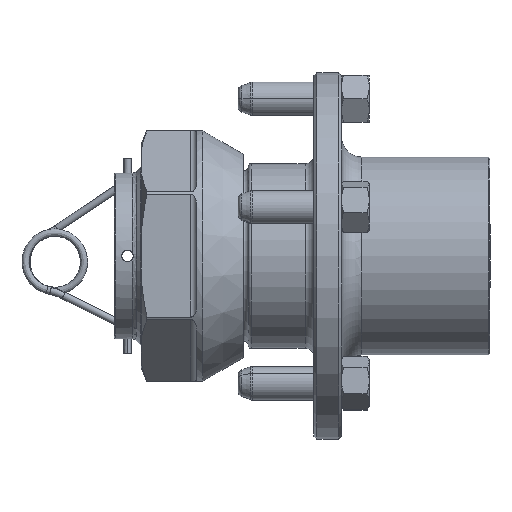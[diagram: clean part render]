
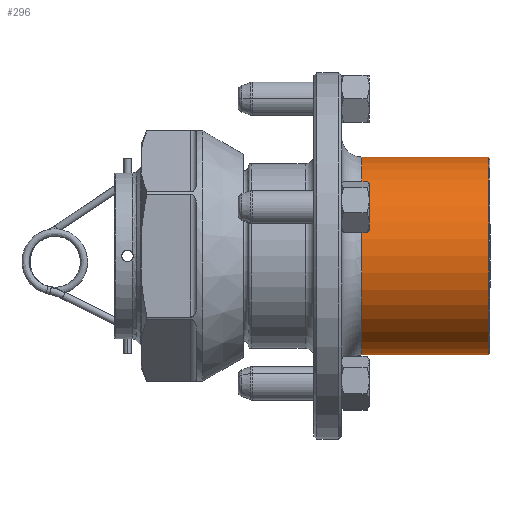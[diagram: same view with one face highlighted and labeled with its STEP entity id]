
A CAD part, top view. The second image highlights one B-rep face of the part: STEP entity #296.
In plain terms, the highlighted cylindrical face has radius 34 mm (diameter 68 mm), a partial arc.
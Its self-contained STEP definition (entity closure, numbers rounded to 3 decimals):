
#296 = ADVANCED_FACE ( 'NONE', ( #5926 ), #13470, .T. ) ;
#883 = EDGE_CURVE ( 'NONE', #19464, #10763, #4447, .T. ) ;
#4056 = DIRECTION ( 'NONE',  ( -1., 0., 0. ) ) ;
#4275 = ORIENTED_EDGE ( 'NONE', *, *, #883, .T. ) ;
#4447 = CIRCLE ( 'NONE', #18035, 34. ) ;
#5503 = CARTESIAN_POINT ( 'NONE',  ( 128.5, -34., 0. ) ) ;
#5817 = AXIS2_PLACEMENT_3D ( 'NONE', #21065, #4056, #11580 ) ;
#5822 = ORIENTED_EDGE ( 'NONE', *, *, #12058, .F. ) ;
#5926 = FACE_OUTER_BOUND ( 'NONE', #7096, .T. ) ;
#7059 = VERTEX_POINT ( 'NONE', #5503 ) ;
#7096 = EDGE_LOOP ( 'NONE', ( #21116, #20594, #4275, #5822 ) ) ;
#7099 = DIRECTION ( 'NONE',  ( 0., -1., 0. ) ) ;
#7210 = DIRECTION ( 'NONE',  ( -1., 0., 0. ) ) ;
#8593 = VECTOR ( 'NONE', #24481, 1000. ) ;
#8639 = CIRCLE ( 'NONE', #22576, 34. ) ;
#9285 = LINE ( 'NONE', #16899, #8593 ) ;
#9585 = LINE ( 'NONE', #15345, #19864 ) ;
#10763 = VERTEX_POINT ( 'NONE', #22270 ) ;
#11580 = DIRECTION ( 'NONE',  ( 0., -1., 0. ) ) ;
#12058 = EDGE_CURVE ( 'NONE', #7059, #10763, #9285, .T. ) ;
#13411 = EDGE_CURVE ( 'NONE', #7059, #13673, #8639, .T. ) ;
#13470 = CYLINDRICAL_SURFACE ( 'NONE', #5817, 34. ) ;
#13673 = VERTEX_POINT ( 'NONE', #23714 ) ;
#14351 = CARTESIAN_POINT ( 'NONE',  ( 85., 34., 0. ) ) ;
#14765 = DIRECTION ( 'NONE',  ( 0., -1., 0. ) ) ;
#15259 = EDGE_CURVE ( 'NONE', #13673, #19464, #9585, .T. ) ;
#15345 = CARTESIAN_POINT ( 'NONE',  ( 0., 34., 0. ) ) ;
#16527 = CARTESIAN_POINT ( 'NONE',  ( 85., 0., 0. ) ) ;
#16899 = CARTESIAN_POINT ( 'NONE',  ( 0., -34., 0. ) ) ;
#18035 = AXIS2_PLACEMENT_3D ( 'NONE', #16527, #24106, #7099 ) ;
#19464 = VERTEX_POINT ( 'NONE', #14351 ) ;
#19864 = VECTOR ( 'NONE', #22943, 1000. ) ;
#20594 = ORIENTED_EDGE ( 'NONE', *, *, #15259, .T. ) ;
#21065 = CARTESIAN_POINT ( 'NONE',  ( 0., 0., 0. ) ) ;
#21116 = ORIENTED_EDGE ( 'NONE', *, *, #13411, .T. ) ;
#22270 = CARTESIAN_POINT ( 'NONE',  ( 85., -34., 0. ) ) ;
#22576 = AXIS2_PLACEMENT_3D ( 'NONE', #24222, #7210, #14765 ) ;
#22943 = DIRECTION ( 'NONE',  ( -1., 0., 0. ) ) ;
#23714 = CARTESIAN_POINT ( 'NONE',  ( 128.5, 34., 0. ) ) ;
#24106 = DIRECTION ( 'NONE',  ( 1., 0., 0. ) ) ;
#24222 = CARTESIAN_POINT ( 'NONE',  ( 128.5, 0., 0. ) ) ;
#24481 = DIRECTION ( 'NONE',  ( -1., 0., 0. ) ) ;
